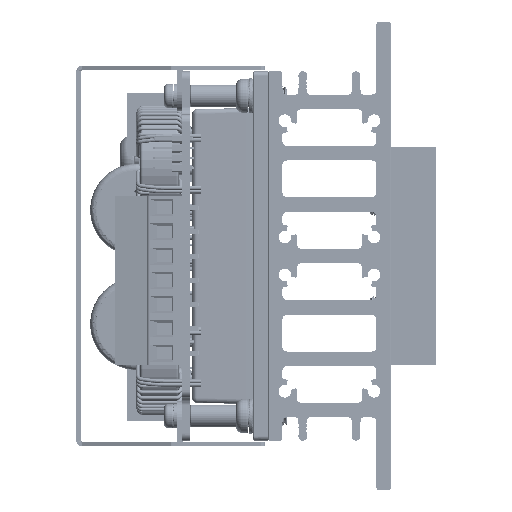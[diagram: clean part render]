
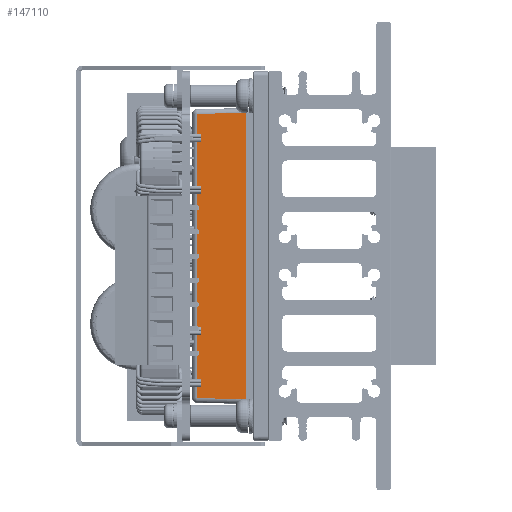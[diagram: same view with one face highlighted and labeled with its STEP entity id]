
A CAD part, left-side view. The second image highlights one B-rep face of the part: STEP entity #147110.
In plain terms, the highlighted planar face has unit normal (-1, 0.018, 0).
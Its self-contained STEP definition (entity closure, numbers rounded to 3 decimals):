
#8176 = CARTESIAN_POINT ( 'NONE',  ( -6.143, 17.617, 29.324 ) ) ;
#21143 = LINE ( 'NONE', #41456, #34823 ) ;
#29825 = DIRECTION ( 'NONE',  ( -1., 0.017, 0. ) ) ;
#34484 = VECTOR ( 'NONE', #73180, 1000. ) ;
#34805 = VERTEX_POINT ( 'NONE', #8176 ) ;
#34823 = VECTOR ( 'NONE', #204291, 1000. ) ;
#41456 = CARTESIAN_POINT ( 'NONE',  ( -6.302, 8.547, -29.482 ) ) ;
#43322 = EDGE_CURVE ( 'NONE', #224311, #141817, #137179, .T. ) ;
#46577 = CARTESIAN_POINT ( 'NONE',  ( -6.143, 17.617, -29.324 ) ) ;
#67318 = EDGE_CURVE ( 'NONE', #209463, #224311, #162718, .T. ) ;
#67774 = ORIENTED_EDGE ( 'NONE', *, *, #221952, .T. ) ;
#68658 = CARTESIAN_POINT ( 'NONE',  ( -6.32, 7.5, 29.5 ) ) ;
#70974 = VECTOR ( 'NONE', #201016, 1000. ) ;
#73180 = DIRECTION ( 'NONE',  ( 0., 0., -1. ) ) ;
#80669 = ORIENTED_EDGE ( 'NONE', *, *, #43322, .T. ) ;
#86177 = ORIENTED_EDGE ( 'NONE', *, *, #149544, .T. ) ;
#96693 = DIRECTION ( 'NONE',  ( 0.017, 1., -0.017 ) ) ;
#107543 = FACE_OUTER_BOUND ( 'NONE', #192329, .T. ) ;
#110523 = AXIS2_PLACEMENT_3D ( 'NONE', #197359, #29825, #123162 ) ;
#112102 = ORIENTED_EDGE ( 'NONE', *, *, #151338, .T. ) ;
#113524 = CARTESIAN_POINT ( 'NONE',  ( -5.32, 7.5, 29.5 ) ) ;
#118173 = CARTESIAN_POINT ( 'NONE',  ( -6.32, 7.483, 29.5 ) ) ;
#123162 = DIRECTION ( 'NONE',  ( 0.017, 1., 0. ) ) ;
#137179 = CIRCLE ( 'NONE', #205887, 1. ) ;
#137269 = CARTESIAN_POINT ( 'NONE',  ( -6.32, 7.5, 29.5 ) ) ;
#141817 = VERTEX_POINT ( 'NONE', #137269 ) ;
#147110 = ADVANCED_FACE ( 'NONE', ( #107543 ), #180545, .T. ) ;
#149544 = EDGE_CURVE ( 'NONE', #34805, #157063, #197732, .T. ) ;
#151338 = EDGE_CURVE ( 'NONE', #157063, #209463, #21143, .T. ) ;
#157063 = VERTEX_POINT ( 'NONE', #46577 ) ;
#162718 = LINE ( 'NONE', #220136, #70974 ) ;
#166225 = DIRECTION ( 'NONE',  ( 0., 0., -1. ) ) ;
#180545 = PLANE ( 'NONE',  #110523 ) ;
#182082 = CARTESIAN_POINT ( 'NONE',  ( -6.143, 17.617, -30.306 ) ) ;
#182844 = ORIENTED_EDGE ( 'NONE', *, *, #67318, .T. ) ;
#192329 = EDGE_LOOP ( 'NONE', ( #182844, #80669, #67774, #86177, #112102 ) ) ;
#192601 = VECTOR ( 'NONE', #96693, 1000. ) ;
#197359 = CARTESIAN_POINT ( 'NONE',  ( -6.32, 7.5, 30.5 ) ) ;
#197732 = LINE ( 'NONE', #182082, #34484 ) ;
#201016 = DIRECTION ( 'NONE',  ( 0., 0., 1. ) ) ;
#204291 = DIRECTION ( 'NONE',  ( -0.017, -1., -0.017 ) ) ;
#205887 = AXIS2_PLACEMENT_3D ( 'NONE', #113524, #222451, #166225 ) ;
#206302 = CARTESIAN_POINT ( 'NONE',  ( -6.32, 7.5, -29.5 ) ) ;
#209171 = LINE ( 'NONE', #118173, #192601 ) ;
#209463 = VERTEX_POINT ( 'NONE', #206302 ) ;
#220136 = CARTESIAN_POINT ( 'NONE',  ( -6.32, 7.5, 30.5 ) ) ;
#221952 = EDGE_CURVE ( 'NONE', #141817, #34805, #209171, .T. ) ;
#222451 = DIRECTION ( 'NONE',  ( 0., 1., 0. ) ) ;
#224311 = VERTEX_POINT ( 'NONE', #68658 ) ;
